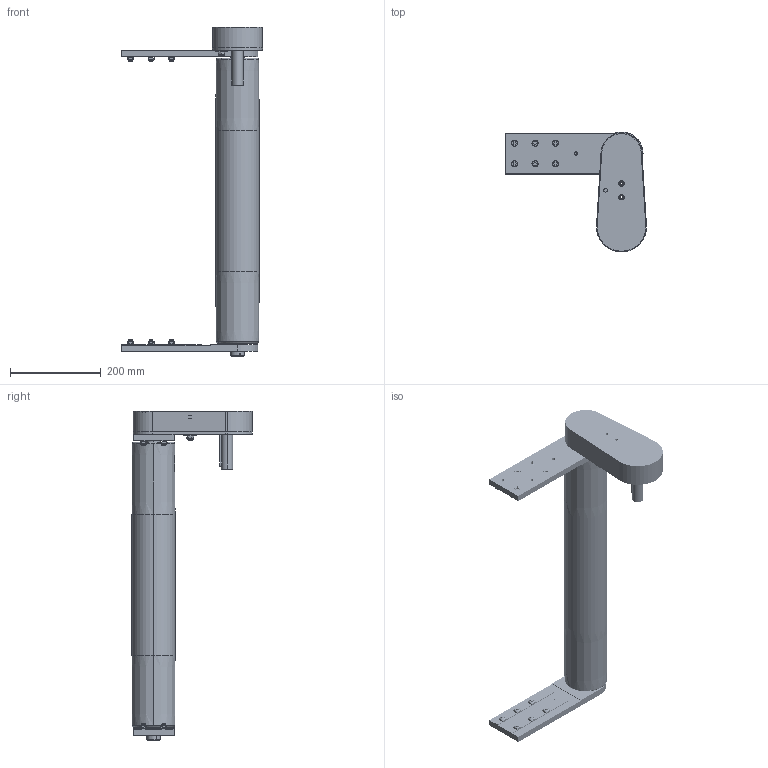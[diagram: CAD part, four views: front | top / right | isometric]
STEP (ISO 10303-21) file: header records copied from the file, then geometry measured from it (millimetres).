
FILE_DESCRIPTION (( 'STEP AP203' ), '1' );
FILE_NAME ('084.095.KTC.49.600.step', '2013-02-28T11:59:48', ( '' ), ( '' ), 'SwSTEP 2.0', 'SolidWorks 2011', '' );
FILE_SCHEMA (( 'CONFIG_CONTROL_DESIGN' ));
Products named in the file (24): 084.095.KTC.49.600; 084.813.005; 084.302.000 DADI ALUSIC 13x13_084.302.004; 084.301.000 VITI ALUSIC_084.301.003; 084.809.003; 084.810.005; Torque nut 01_ALUSIC_ISO 7040-M8-S; Plain Washer XLarge Grade C_ALUSIC_Washer ISO 7094 - 8; Circlip for Shafts normal_din_Circlip DIN 471 - 8 x 0.8; CUSCINETTI A SFERE_608-2RS; 084.810.004; 084.810.007; CHIAVETTE_A 8x7x70 UNI 6604-69; 084.803.012; 084.803.014; 084.809.002; 084.808.002_084.808.002; 084.808.003_084.808.003; 084.802.019_084.802.019; 084.802.034_084.802.034; 084.810.003; 084.813.002; 084.812.003; 084.816.110_084.816.110<A macchina>
Assembly tree (48 placements, depth 3):
  084.095.KTC.49.600
    084.301.000 VITI ALUSIC_084.301.003  x12
    084.803.012
    084.803.014  x2
    084.808.002_084.808.002
    084.802.019_084.802.019
    084.813.002
    084.302.000 DADI ALUSIC 13x13_084.302.004  x12
    CHIAVETTE_A 8x7x70 UNI 6604-69
    084.808.003_084.808.003
    084.809.003
    084.816.110_084.816.110<A macchina>
    084.813.005
    084.812.003
    084.802.034_084.802.034
    084.809.002
    084.810.003  x2
    084.810.005
      CUSCINETTI A SFERE_608-2RS  x2
      Circlip for Shafts normal_din_Circlip DIN 471 - 8 x 0.8
      084.810.004
      084.810.007
      Plain Washer XLarge Grade C_ALUSIC_Washer ISO 7094 - 8
      Torque nut 01_ALUSIC_ISO 7040-M8-S
Bounding box: 310 x 264 x 723.5 mm (x, y, z)
Volume: 2360796.1 mm3; surface area: 1083046.4 mm2
Topology: 77 solids, 78 shells, 3128 faces, 7346 edges, 4692 vertices
Faces by surface type: cylinder 1493, plane 851, bspline 468, cone 197, torus 110, sphere 9
Entity records: 84145 total; most frequent: CARTESIAN_POINT 18919, DIRECTION 14131, ORIENTED_EDGE 12242, EDGE_CURVE 6121, AXIS2_PLACEMENT_3D 5953, VERTEX_POINT 3897, CIRCLE 3741, EDGE_LOOP 3202
